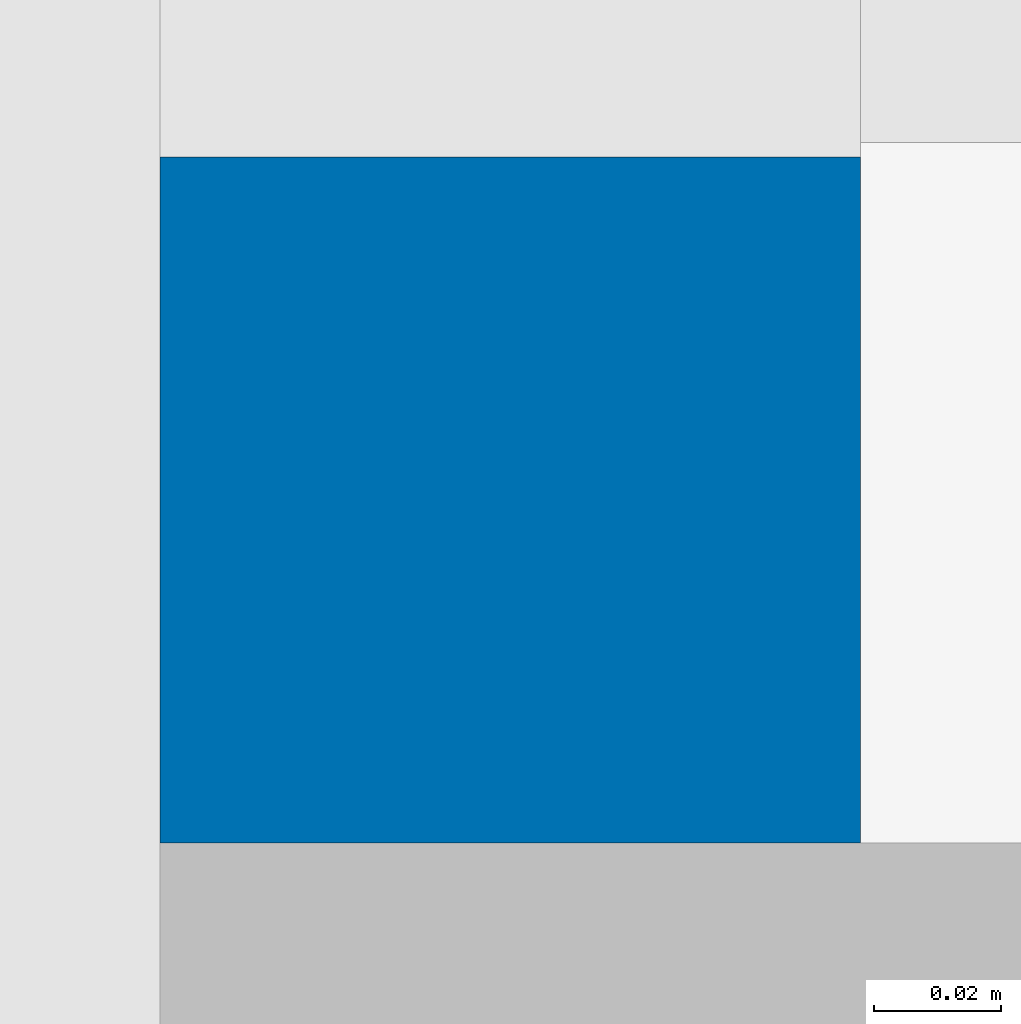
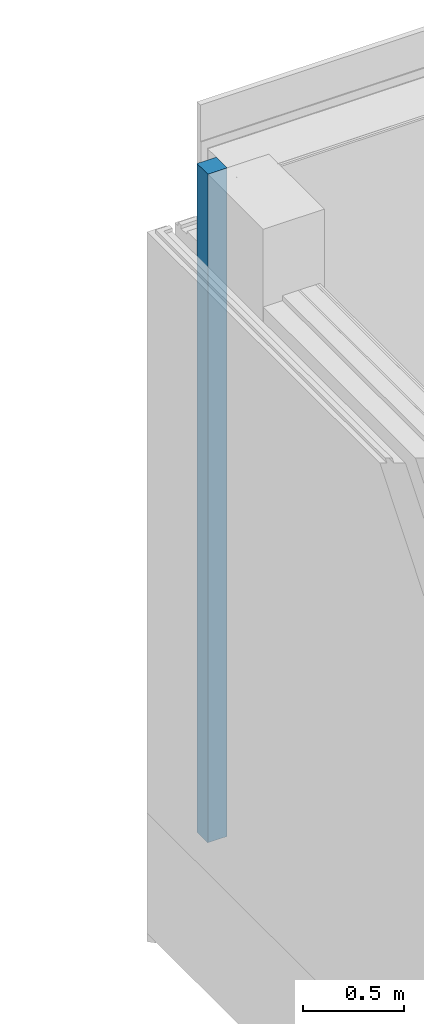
# One storey, part 4 of 54: 1 column.
"""IFC2X3 building model written with IfcOpenShell, lengths in millimetres."""

from ifc_helpers import new_model, entity, si_unit, converted_unit, derived_unit, money_unit, direction, frame, origin_with_axes, place, context, subcontext, project, spatial, faceted_brep, material, type_object, element, save


model = new_model("IFC2X3")

# Units and contexts
model_context = context("Model", 3, precision=0.01, world=origin_with_axes(), true_north=direction((0.0, 1.0)))
body_context = subcontext(model_context, "Body", "Model", "MODEL_VIEW")
ifc_project = project(units=[si_unit("LENGTHUNIT", "METRE", prefix="MILLI"), si_unit("AREAUNIT", "SQUARE_METRE"), si_unit("VOLUMEUNIT", "CUBIC_METRE"), converted_unit("PLANEANGLEUNIT", "DEGREE", entity("IfcPlaneAngleMeasure", 0.0174532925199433), si_unit("PLANEANGLEUNIT", "RADIAN"), dimensions=[0, 0, 0, 0, 0, 0, 0]), money_unit("EUR"), converted_unit("TIMEUNIT", "Year", entity("IfcTimeMeasure", 31557600.0), si_unit("TIMEUNIT", "SECOND"), dimensions=[0, 0, 1, 0, 0, 0, 0]), si_unit("MASSUNIT", "GRAM", prefix="KILO"), si_unit("THERMODYNAMICTEMPERATUREUNIT", "DEGREE_CELSIUS"), si_unit("LUMINOUSINTENSITYUNIT", "LUMEN"), si_unit("ENERGYUNIT", "JOULE", prefix="MEGA"), derived_unit("THERMALCONDUCTANCEUNIT", [(si_unit("POWERUNIT", "WATT"), 1), (si_unit("LENGTHUNIT", "METRE"), -1), (si_unit("THERMODYNAMICTEMPERATUREUNIT", "KELVIN"), -1)]), derived_unit("SPECIFICHEATCAPACITYUNIT", [(si_unit("ENERGYUNIT", "JOULE"), 1), (si_unit("MASSUNIT", "GRAM", prefix="KILO"), -1), (si_unit("THERMODYNAMICTEMPERATUREUNIT", "KELVIN"), -1)]), derived_unit("MASSDENSITYUNIT", [(si_unit("MASSUNIT", "GRAM", prefix="KILO"), 1), (si_unit("VOLUMEUNIT", "CUBIC_METRE"), -1)])], contexts=[model_context])

# Site, building, storey
site_placement = place(None, origin_with_axes())
site = spatial("IfcSite", under=ifc_project, at=site_placement, Name="<site naam>", CompositionType="ELEMENT")
building_placement = place(site_placement, origin_with_axes())
building = spatial("IfcBuilding", under=site, at=building_placement, Name="<Naam gebouw>", CompositionType="ELEMENT")
storey_placement = place(building_placement, frame((0.0, 0.0, 8500.0), z_axis=(0.0, 0.0, 1.0), x_axis=(1.0, 0.0, 0.0)))
storey = spatial("IfcBuildingStorey", under=building, at=storey_placement, Name="02 2e verdieping", CompositionType="ELEMENT", Elevation=8500.0)

# Column
ifc_material = material(Name="beton_gewapend C")
column_type = type_object("IfcColumnType", Name="beton_gewapend C 110 x 108", PredefinedType="COLUMN")
column_placement = place(storey_placement, frame((11879.99997704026, 20053.83728223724, 0.0), z_axis=(0.0, 0.0, 1.0), x_axis=(1.0, 0.0, 0.0)))
element("IfcColumn", 1, at=column_placement, inside=storey, type_object=column_type, material=ifc_material, Name="28_Kolom_beton_gewapend", ObjectType="COLUMN", context=body_context, shape_type="Brep", body=[
    faceted_brep([(54.99997704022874, 53.83736682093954, 0.0), (-54.99997704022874, 53.83736682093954, 0.0), (-54.99997704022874, 53.83736682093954, 4050.000014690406), (54.99997704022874, 53.83736682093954, 4050.000014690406), (-54.99997704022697, -53.83736682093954, 0.0), (54.99997704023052, -53.83736682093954, 0.0), (-54.99997704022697, -53.83736682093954, 4050.000014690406), (54.99997704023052, -53.83736682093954, 4050.000014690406)], [[[0, 1, 2, 3]], [[4, 1, 0, 5]], [[1, 4, 6, 2]], [[2, 6, 7, 3]], [[5, 0, 3, 7]], [[4, 5, 7, 6]]]),
])

save(model, "model.ifc")
